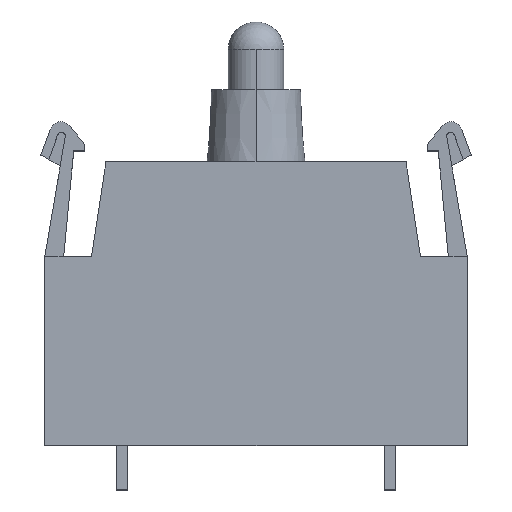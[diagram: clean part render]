
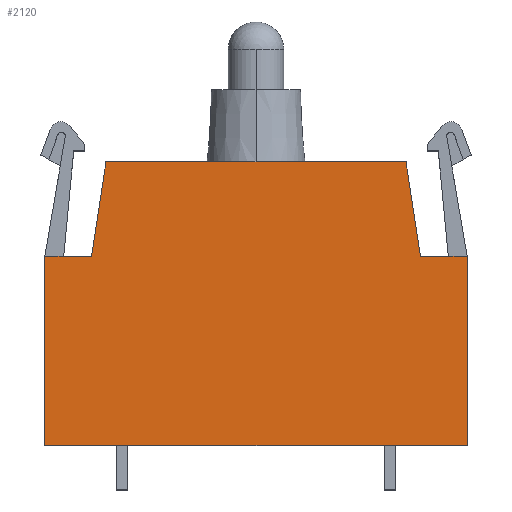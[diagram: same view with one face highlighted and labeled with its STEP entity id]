
A CAD part, top view. The second image highlights one B-rep face of the part: STEP entity #2120.
In plain terms, the highlighted planar face has unit normal (0, 0, 1).
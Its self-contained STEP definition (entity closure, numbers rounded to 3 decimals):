
#13 = LINE ( 'NONE', #1922, #2649 ) ;
#20 = VERTEX_POINT ( 'NONE', #2471 ) ;
#31 = DIRECTION ( 'NONE',  ( 0., 1., 0. ) ) ;
#69 = VECTOR ( 'NONE', #1914, 1000. ) ;
#125 = CARTESIAN_POINT ( 'NONE',  ( 19., -12.75, 4.95 ) ) ;
#268 = CARTESIAN_POINT ( 'NONE',  ( 19., 4.25, 4.95 ) ) ;
#377 = CARTESIAN_POINT ( 'NONE',  ( 13.5, 12.75, 4.95 ) ) ;
#413 = ORIENTED_EDGE ( 'NONE', *, *, #1867, .T. ) ;
#418 = ORIENTED_EDGE ( 'NONE', *, *, #713, .T. ) ;
#454 = VECTOR ( 'NONE', #2173, 1000. ) ;
#484 = LINE ( 'NONE', #377, #2642 ) ;
#531 = DIRECTION ( 'NONE',  ( -0.151, -0.989, 0. ) ) ;
#555 = CARTESIAN_POINT ( 'NONE',  ( -13.5, 12.75, 4.95 ) ) ;
#612 = LINE ( 'NONE', #1788, #69 ) ;
#703 = ORIENTED_EDGE ( 'NONE', *, *, #1875, .T. ) ;
#713 = EDGE_CURVE ( 'NONE', #20, #797, #1925, .T. ) ;
#774 = CARTESIAN_POINT ( 'NONE',  ( -14.8, 4.25, 4.95 ) ) ;
#797 = VERTEX_POINT ( 'NONE', #1752 ) ;
#801 = ORIENTED_EDGE ( 'NONE', *, *, #2487, .T. ) ;
#827 = ORIENTED_EDGE ( 'NONE', *, *, #1241, .T. ) ;
#872 = CARTESIAN_POINT ( 'NONE',  ( 19., -12.75, 4.95 ) ) ;
#877 = CARTESIAN_POINT ( 'NONE',  ( -19., 4.25, 4.95 ) ) ;
#907 = PLANE ( 'NONE',  #1521 ) ;
#910 = DIRECTION ( 'NONE',  ( 0., 0., 1. ) ) ;
#1048 = LINE ( 'NONE', #125, #1554 ) ;
#1113 = VERTEX_POINT ( 'NONE', #555 ) ;
#1156 = EDGE_LOOP ( 'NONE', ( #2009, #418, #2571, #801, #413, #827, #703, #2416 ) ) ;
#1226 = VERTEX_POINT ( 'NONE', #877 ) ;
#1241 = EDGE_CURVE ( 'NONE', #2509, #1226, #13, .T. ) ;
#1246 = EDGE_CURVE ( 'NONE', #1329, #1783, #1048, .T. ) ;
#1329 = VERTEX_POINT ( 'NONE', #2659 ) ;
#1456 = DIRECTION ( 'NONE',  ( 1., 0., 0. ) ) ;
#1480 = FACE_OUTER_BOUND ( 'NONE', #1156, .T. ) ;
#1521 = AXIS2_PLACEMENT_3D ( 'NONE', #2556, #910, #1456 ) ;
#1540 = CARTESIAN_POINT ( 'NONE',  ( 19., -12.75, 4.95 ) ) ;
#1554 = VECTOR ( 'NONE', #2134, 1000. ) ;
#1752 = CARTESIAN_POINT ( 'NONE',  ( 14.8, 4.25, 4.95 ) ) ;
#1767 = CARTESIAN_POINT ( 'NONE',  ( -14.8, 4.25, 4.95 ) ) ;
#1769 = DIRECTION ( 'NONE',  ( -1., 0., 0. ) ) ;
#1783 = VERTEX_POINT ( 'NONE', #1540 ) ;
#1788 = CARTESIAN_POINT ( 'NONE',  ( 14.8, 4.25, 4.95 ) ) ;
#1867 = EDGE_CURVE ( 'NONE', #1113, #2509, #2214, .T. ) ;
#1875 = EDGE_CURVE ( 'NONE', #1226, #1329, #2557, .T. ) ;
#1883 = VERTEX_POINT ( 'NONE', #2394 ) ;
#1914 = DIRECTION ( 'NONE',  ( -0.151, 0.989, 0. ) ) ;
#1922 = CARTESIAN_POINT ( 'NONE',  ( -19., 4.25, 4.95 ) ) ;
#1925 = LINE ( 'NONE', #268, #2118 ) ;
#2002 = EDGE_CURVE ( 'NONE', #797, #1883, #612, .T. ) ;
#2009 = ORIENTED_EDGE ( 'NONE', *, *, #2309, .T. ) ;
#2070 = VECTOR ( 'NONE', #531, 1000. ) ;
#2118 = VECTOR ( 'NONE', #2504, 1000. ) ;
#2120 = ADVANCED_FACE ( 'NONE', ( #1480 ), #907, .T. ) ;
#2134 = DIRECTION ( 'NONE',  ( 1., 0., 0. ) ) ;
#2151 = DIRECTION ( 'NONE',  ( -1., 0., 0. ) ) ;
#2168 = CARTESIAN_POINT ( 'NONE',  ( -19., -12.75, 4.95 ) ) ;
#2173 = DIRECTION ( 'NONE',  ( 0., -1., 0. ) ) ;
#2214 = LINE ( 'NONE', #774, #2070 ) ;
#2309 = EDGE_CURVE ( 'NONE', #1783, #20, #2613, .T. ) ;
#2394 = CARTESIAN_POINT ( 'NONE',  ( 13.5, 12.75, 4.95 ) ) ;
#2416 = ORIENTED_EDGE ( 'NONE', *, *, #1246, .T. ) ;
#2471 = CARTESIAN_POINT ( 'NONE',  ( 19., 4.25, 4.95 ) ) ;
#2487 = EDGE_CURVE ( 'NONE', #1883, #1113, #484, .T. ) ;
#2504 = DIRECTION ( 'NONE',  ( -1., 0., 0. ) ) ;
#2509 = VERTEX_POINT ( 'NONE', #1767 ) ;
#2553 = VECTOR ( 'NONE', #31, 1000. ) ;
#2556 = CARTESIAN_POINT ( 'NONE',  ( 19., 4.25, 4.95 ) ) ;
#2557 = LINE ( 'NONE', #2168, #454 ) ;
#2571 = ORIENTED_EDGE ( 'NONE', *, *, #2002, .T. ) ;
#2613 = LINE ( 'NONE', #872, #2553 ) ;
#2642 = VECTOR ( 'NONE', #1769, 1000. ) ;
#2649 = VECTOR ( 'NONE', #2151, 1000. ) ;
#2659 = CARTESIAN_POINT ( 'NONE',  ( -19., -12.75, 4.95 ) ) ;
